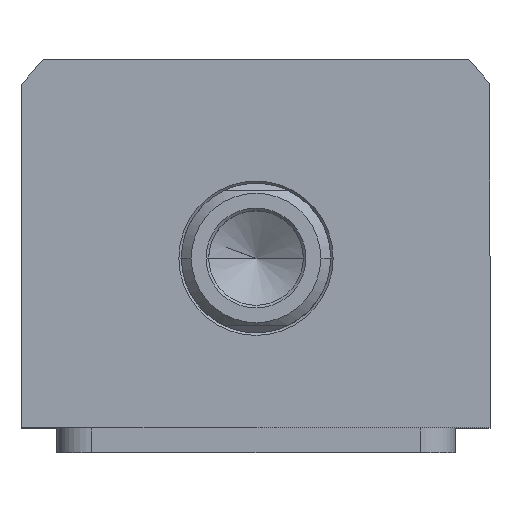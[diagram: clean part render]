
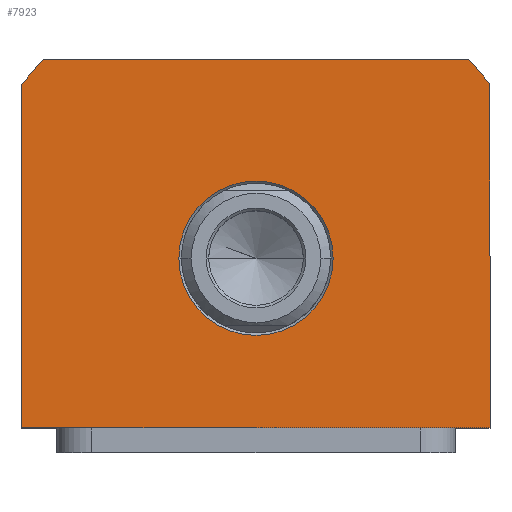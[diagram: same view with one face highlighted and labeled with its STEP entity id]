
A CAD part, top view. The second image highlights one B-rep face of the part: STEP entity #7923.
In plain terms, the highlighted planar face has unit normal (0, 0, 1).
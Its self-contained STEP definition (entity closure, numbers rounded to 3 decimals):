
#185 = DIRECTION ( 'NONE',  ( 0., 0., 1. ) ) ;
#378 = ORIENTED_EDGE ( 'NONE', *, *, #8094, .T. ) ;
#439 = ORIENTED_EDGE ( 'NONE', *, *, #5343, .T. ) ;
#498 = LINE ( 'NONE', #8922, #2772 ) ;
#783 = CARTESIAN_POINT ( 'NONE',  ( 47., -34., 45. ) ) ;
#848 = ORIENTED_EDGE ( 'NONE', *, *, #11540, .T. ) ;
#929 = VERTEX_POINT ( 'NONE', #10488 ) ;
#1097 = FACE_OUTER_BOUND ( 'NONE', #2308, .T. ) ;
#1157 = DIRECTION ( 'NONE',  ( 0., 0., -1. ) ) ;
#1186 = CARTESIAN_POINT ( 'NONE',  ( -15.5, 0., 45. ) ) ;
#1565 = AXIS2_PLACEMENT_3D ( 'NONE', #5644, #1157, #4942 ) ;
#2308 = EDGE_LOOP ( 'NONE', ( #848, #10241, #10866, #7807, #11618, #378 ) ) ;
#2717 = VERTEX_POINT ( 'NONE', #7911 ) ;
#2772 = VECTOR ( 'NONE', #4317, 1000. ) ;
#2896 = VERTEX_POINT ( 'NONE', #6013 ) ;
#3290 = LINE ( 'NONE', #783, #3415 ) ;
#3364 = VERTEX_POINT ( 'NONE', #4996 ) ;
#3415 = VECTOR ( 'NONE', #11681, 1000. ) ;
#3489 = EDGE_CURVE ( 'NONE', #3364, #4293, #498, .T. ) ;
#3501 = CARTESIAN_POINT ( 'NONE',  ( 0., 0., 45. ) ) ;
#3538 = VECTOR ( 'NONE', #6337, 1000. ) ;
#3731 = CARTESIAN_POINT ( 'NONE',  ( 0., 0., 45. ) ) ;
#3807 = CARTESIAN_POINT ( 'NONE',  ( 42.688, 40., 45. ) ) ;
#3922 = AXIS2_PLACEMENT_3D ( 'NONE', #3501, #7123, #8072 ) ;
#4293 = VERTEX_POINT ( 'NONE', #5079 ) ;
#4317 = DIRECTION ( 'NONE',  ( 0., 1., 0. ) ) ;
#4409 = EDGE_CURVE ( 'NONE', #929, #8768, #7367, .T. ) ;
#4502 = CIRCLE ( 'NONE', #5346, 58.5 ) ;
#4598 = CARTESIAN_POINT ( 'NONE',  ( 0., 0., 45. ) ) ;
#4719 = CIRCLE ( 'NONE', #7902, 58.5 ) ;
#4942 = DIRECTION ( 'NONE',  ( 1., 0., 0. ) ) ;
#4996 = CARTESIAN_POINT ( 'NONE',  ( 47., -34., 45. ) ) ;
#5079 = CARTESIAN_POINT ( 'NONE',  ( 47., 34.832, 45. ) ) ;
#5343 = EDGE_CURVE ( 'NONE', #8768, #929, #5514, .T. ) ;
#5346 = AXIS2_PLACEMENT_3D ( 'NONE', #3731, #185, #10113 ) ;
#5389 = PLANE ( 'NONE',  #3922 ) ;
#5490 = DIRECTION ( 'NONE',  ( 1., 0., 0. ) ) ;
#5514 = CIRCLE ( 'NONE', #1565, 15.5 ) ;
#5543 = AXIS2_PLACEMENT_3D ( 'NONE', #10476, #11500, #8740 ) ;
#5644 = CARTESIAN_POINT ( 'NONE',  ( 0., 0., 45. ) ) ;
#6013 = CARTESIAN_POINT ( 'NONE',  ( -47., 34.832, 45. ) ) ;
#6215 = CARTESIAN_POINT ( 'NONE',  ( -42.688, 40., 45. ) ) ;
#6337 = DIRECTION ( 'NONE',  ( -1., 0., 0. ) ) ;
#7123 = DIRECTION ( 'NONE',  ( 0., 0., 1. ) ) ;
#7334 = EDGE_CURVE ( 'NONE', #4293, #11829, #4719, .T. ) ;
#7367 = CIRCLE ( 'NONE', #5543, 15.5 ) ;
#7473 = CARTESIAN_POINT ( 'NONE',  ( -47., -34., 45. ) ) ;
#7807 = ORIENTED_EDGE ( 'NONE', *, *, #10221, .T. ) ;
#7837 = EDGE_LOOP ( 'NONE', ( #11719, #439 ) ) ;
#7902 = AXIS2_PLACEMENT_3D ( 'NONE', #4598, #11008, #5490 ) ;
#7911 = CARTESIAN_POINT ( 'NONE',  ( -47., -34., 45. ) ) ;
#7923 = ADVANCED_FACE ( 'NONE', ( #10703, #1097 ), #5389, .T. ) ;
#8072 = DIRECTION ( 'NONE',  ( 1., 0., 0. ) ) ;
#8094 = EDGE_CURVE ( 'NONE', #2896, #2717, #8856, .T. ) ;
#8455 = VERTEX_POINT ( 'NONE', #6215 ) ;
#8740 = DIRECTION ( 'NONE',  ( 1., 0., 0. ) ) ;
#8768 = VERTEX_POINT ( 'NONE', #1186 ) ;
#8856 = LINE ( 'NONE', #7473, #10117 ) ;
#8922 = CARTESIAN_POINT ( 'NONE',  ( 47., 34.832, 45. ) ) ;
#10113 = DIRECTION ( 'NONE',  ( 1., 0., 0. ) ) ;
#10117 = VECTOR ( 'NONE', #11264, 1000. ) ;
#10221 = EDGE_CURVE ( 'NONE', #11829, #8455, #10829, .T. ) ;
#10241 = ORIENTED_EDGE ( 'NONE', *, *, #3489, .T. ) ;
#10476 = CARTESIAN_POINT ( 'NONE',  ( 0., 0., 45. ) ) ;
#10488 = CARTESIAN_POINT ( 'NONE',  ( 15.5, 0., 45. ) ) ;
#10703 = FACE_BOUND ( 'NONE', #7837, .T. ) ;
#10829 = LINE ( 'NONE', #11806, #3538 ) ;
#10866 = ORIENTED_EDGE ( 'NONE', *, *, #7334, .T. ) ;
#11008 = DIRECTION ( 'NONE',  ( 0., 0., 1. ) ) ;
#11264 = DIRECTION ( 'NONE',  ( 0., -1., 0. ) ) ;
#11500 = DIRECTION ( 'NONE',  ( 0., 0., -1. ) ) ;
#11540 = EDGE_CURVE ( 'NONE', #2717, #3364, #3290, .T. ) ;
#11618 = ORIENTED_EDGE ( 'NONE', *, *, #11863, .T. ) ;
#11681 = DIRECTION ( 'NONE',  ( 1., 0., 0. ) ) ;
#11719 = ORIENTED_EDGE ( 'NONE', *, *, #4409, .T. ) ;
#11806 = CARTESIAN_POINT ( 'NONE',  ( -42.688, 40., 45. ) ) ;
#11829 = VERTEX_POINT ( 'NONE', #3807 ) ;
#11863 = EDGE_CURVE ( 'NONE', #8455, #2896, #4502, .T. ) ;
